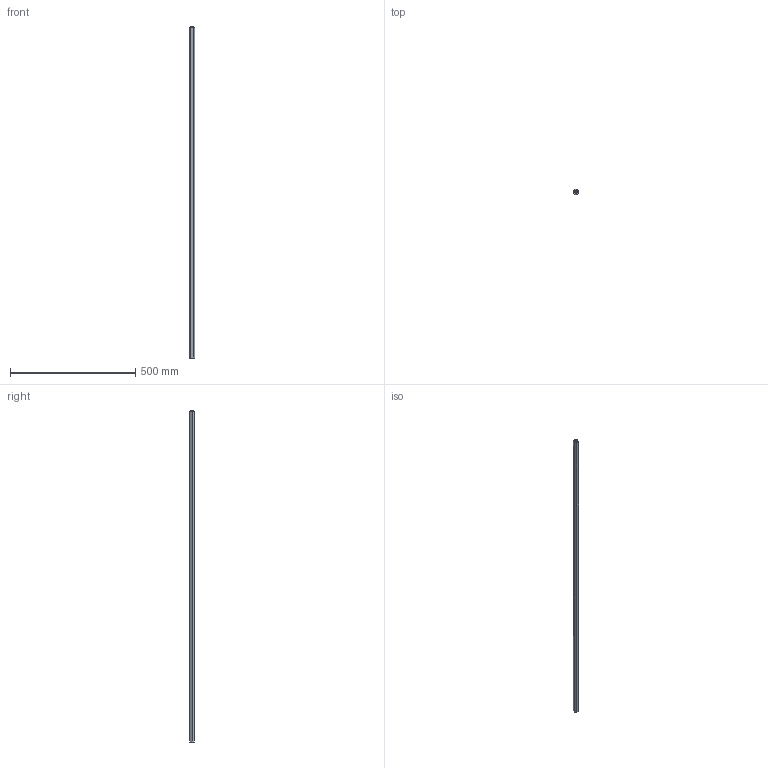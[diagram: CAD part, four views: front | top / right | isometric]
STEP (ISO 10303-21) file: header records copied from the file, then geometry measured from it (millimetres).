
FILE_DESCRIPTION(('FreeCAD Model'),'2;1');
FILE_NAME('Open CASCADE Shape Model','2026-10-09T19:42:23',(''),(''), 'Open CASCADE STEP processor 7.8','FreeCAD','Unknown');
FILE_SCHEMA(('AUTOMOTIVE_DESIGN { 1 0 10303 214 1 1 1 1 }'));
Length unit declared in the file: millimetre
Products named in the file (1): Body
Bounding box: 21.99 x 19.04 x 1326.87 mm (x, y, z)
Volume: 327834.1 mm3; surface area: 126078.3 mm2
Topology: 1 solids, 1 shells, 11 faces, 24 edges, 16 vertices
Faces by surface type: plane 9, cylinder 2
Full cylindrical faces by diameter (mm): 9.169 x1, 12.827 x1
Entity records: 327 total; most frequent: CARTESIAN_POINT 53, DIRECTION 51, ORIENTED_EDGE 48, EDGE_CURVE 24, LINE 19, VECTOR 19, AXIS2_PLACEMENT_3D 16, VERTEX_POINT 16
